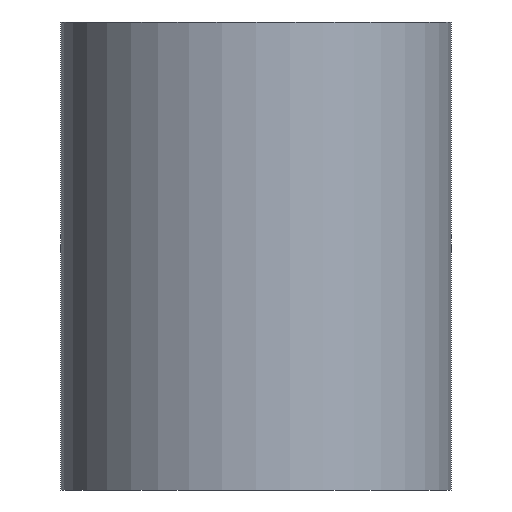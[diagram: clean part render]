
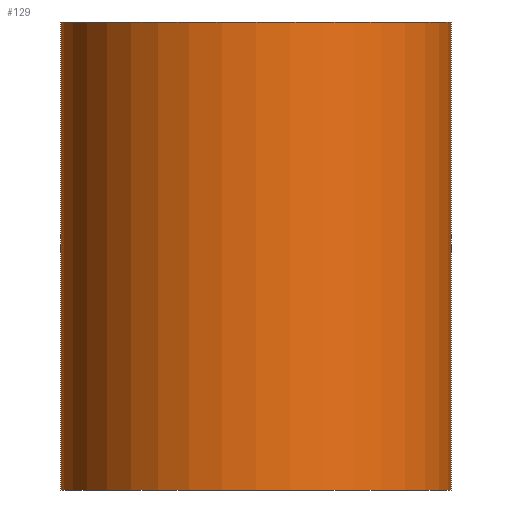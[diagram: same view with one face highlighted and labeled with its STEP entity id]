
A CAD part, front view. The second image highlights one B-rep face of the part: STEP entity #129.
In plain terms, the highlighted cylindrical face has radius 12.5 mm (diameter 25 mm), a partial arc.
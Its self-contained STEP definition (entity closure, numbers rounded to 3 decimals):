
#102=CYLINDRICAL_SURFACE('',#250,12.5);
#108=FACE_OUTER_BOUND('',#150,.T.);
#113=LINE('',#337,#119);
#114=LINE('',#338,#120);
#119=VECTOR('',#295,1.);
#120=VECTOR('',#296,1.);
#129=ADVANCED_FACE('',(#108),#102,.T.);
#150=EDGE_LOOP('',(#183,#184,#185,#186));
#183=ORIENTED_EDGE('',*,*,#215,.F.);
#184=ORIENTED_EDGE('',*,*,#214,.T.);
#185=ORIENTED_EDGE('',*,*,#216,.T.);
#186=ORIENTED_EDGE('',*,*,#199,.F.);
#187=VERTEX_POINT('',#303);
#188=VERTEX_POINT('',#304);
#197=VERTEX_POINT('',#333);
#198=VERTEX_POINT('',#334);
#199=EDGE_CURVE('',#187,#188,#217,.T.);
#214=EDGE_CURVE('',#198,#197,#228,.T.);
#215=EDGE_CURVE('',#198,#187,#113,.T.);
#216=EDGE_CURVE('',#197,#188,#114,.T.);
#217=CIRCLE('',#230,12.5);
#228=CIRCLE('',#247,12.5);
#230=AXIS2_PLACEMENT_3D('',#302,#253,#254);
#247=AXIS2_PLACEMENT_3D('',#335,#291,#292);
#250=AXIS2_PLACEMENT_3D('',#340,#299,#300);
#253=DIRECTION('',(0.,0.,1.));
#254=DIRECTION('',(0.,1.,0.));
#291=DIRECTION('',(0.,0.,1.));
#292=DIRECTION('',(0.,1.,0.));
#295=DIRECTION('',(0.,0.,1.));
#296=DIRECTION('',(0.,0.,1.));
#299=DIRECTION('',(0.,0.,1.));
#300=DIRECTION('',(0.,-1.,0.));
#302=CARTESIAN_POINT('',(0.,0.,30.));
#303=CARTESIAN_POINT('',(-12.5,0.,30.));
#304=CARTESIAN_POINT('',(12.5,0.,30.));
#333=CARTESIAN_POINT('',(12.5,0.,0.));
#334=CARTESIAN_POINT('',(-12.5,0.,0.));
#335=CARTESIAN_POINT('',(0.,0.,0.));
#337=CARTESIAN_POINT('',(-12.5,0.,0.));
#338=CARTESIAN_POINT('',(12.5,0.,0.));
#340=CARTESIAN_POINT('',(0.,0.,0.));
